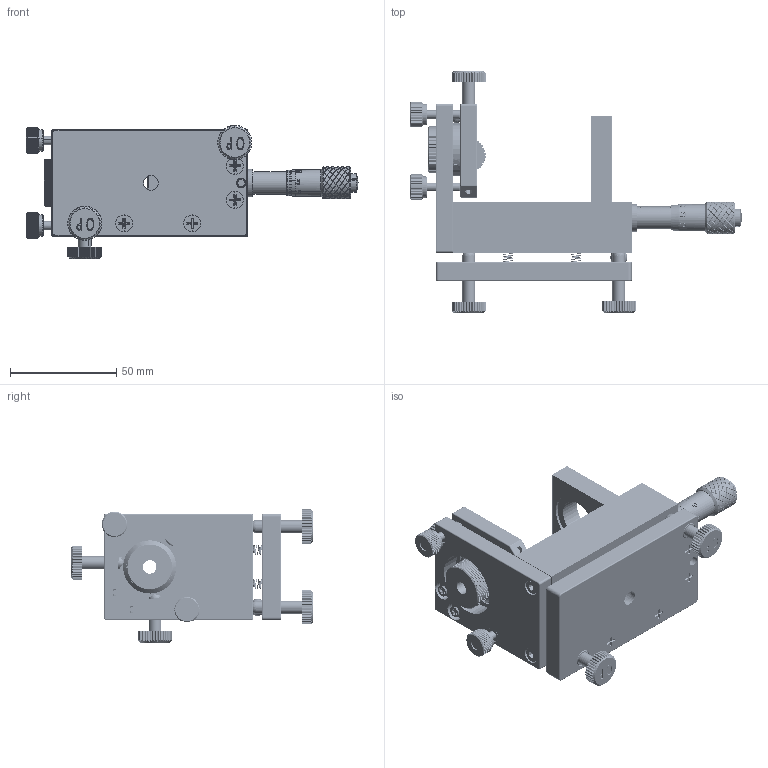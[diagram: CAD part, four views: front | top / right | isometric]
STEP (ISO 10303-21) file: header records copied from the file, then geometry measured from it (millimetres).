
FILE_DESCRIPTION (( 'STEP AP203' ), '1' );
FILE_NAME ('FC-2.STEP', '2016-11-29T07:25:21', ( '' ), ( '' ), 'SwSTEP 2.0', 'SolidWorks 2012', '' );
FILE_SCHEMA (( 'CONFIG_CONTROL_DESIGN' ));
Products named in the file (1): FC-2
Bounding box: 155.98 x 113.71 x 62.49 mm (x, y, z)
Volume: 175402.8 mm3; surface area: 88640.8 mm2
Topology: 64 solids, 64 shells, 3555 faces, 9440 edges, 6124 vertices
Faces by surface type: plane 1683, cylinder 1154, bspline 538, cone 130, sphere 28, torus 22
Entity records: 213231 total; most frequent: CARTESIAN_POINT 132092, ORIENTED_EDGE 18772, DIRECTION 14508, EDGE_CURVE 9386, VERTEX_POINT 6110, AXIS2_PLACEMENT_3D 5250, VECTOR 4008, LINE 4008
